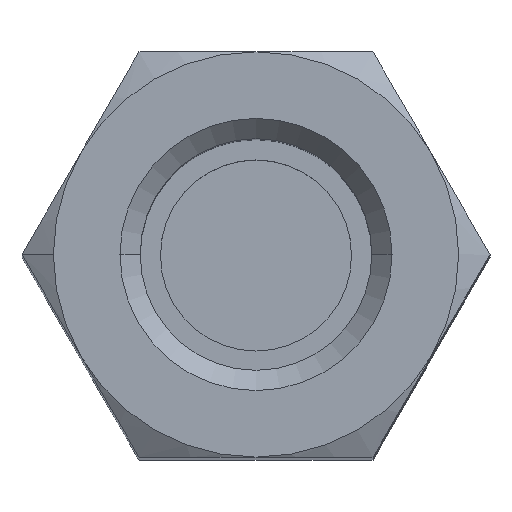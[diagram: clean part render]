
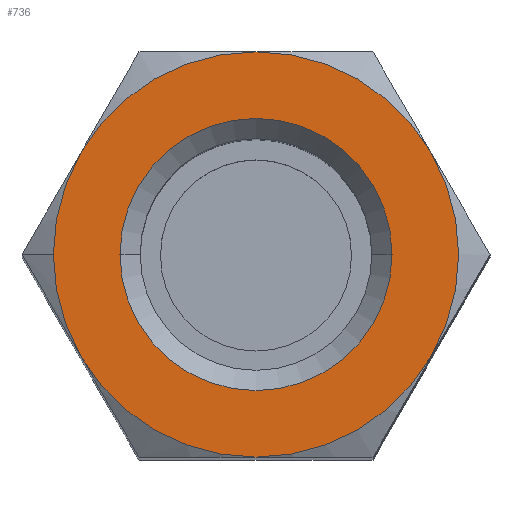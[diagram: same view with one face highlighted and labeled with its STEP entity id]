
A CAD part, top view. The second image highlights one B-rep face of the part: STEP entity #736.
In plain terms, the highlighted planar face has unit normal (0, 0, 1).
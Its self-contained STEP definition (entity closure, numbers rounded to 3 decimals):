
#3 = DIRECTION ( 'NONE',  ( -1., 0., 0. ) ) ;
#19 = PLANE ( 'NONE',  #135 ) ;
#32 = AXIS2_PLACEMENT_3D ( 'NONE', #648, #622, #3 ) ;
#44 = CARTESIAN_POINT ( 'NONE',  ( 0., 0., 15. ) ) ;
#86 = CARTESIAN_POINT ( 'NONE',  ( 0., -3.5, 15. ) ) ;
#89 = DIRECTION ( 'NONE',  ( 0., 0., 1. ) ) ;
#91 = ORIENTED_EDGE ( 'NONE', *, *, #870, .T. ) ;
#92 = ORIENTED_EDGE ( 'NONE', *, *, #523, .T. ) ;
#97 = VERTEX_POINT ( 'NONE', #668 ) ;
#118 = DIRECTION ( 'NONE',  ( 0., 0., -1. ) ) ;
#133 = CIRCLE ( 'NONE', #567, 2.35 ) ;
#135 = AXIS2_PLACEMENT_3D ( 'NONE', #826, #118, #731 ) ;
#138 = CARTESIAN_POINT ( 'NONE',  ( 0., 0., 15. ) ) ;
#149 = ORIENTED_EDGE ( 'NONE', *, *, #902, .T. ) ;
#170 = CIRCLE ( 'NONE', #785, 2.35 ) ;
#185 = FACE_OUTER_BOUND ( 'NONE', #864, .T. ) ;
#198 = EDGE_LOOP ( 'NONE', ( #291, #268 ) ) ;
#218 = DIRECTION ( 'NONE',  ( 0., 0., -1. ) ) ;
#221 = DIRECTION ( 'NONE',  ( -1., 0., 0. ) ) ;
#238 = DIRECTION ( 'NONE',  ( -1., 0., 0. ) ) ;
#252 = VERTEX_POINT ( 'NONE', #928 ) ;
#264 = CIRCLE ( 'NONE', #666, 3.5 ) ;
#265 = CIRCLE ( 'NONE', #735, 3.5 ) ;
#268 = ORIENTED_EDGE ( 'NONE', *, *, #331, .T. ) ;
#281 = AXIS2_PLACEMENT_3D ( 'NONE', #536, #1058, #970 ) ;
#289 = VERTEX_POINT ( 'NONE', #293 ) ;
#291 = ORIENTED_EDGE ( 'NONE', *, *, #334, .T. ) ;
#293 = CARTESIAN_POINT ( 'NONE',  ( 0., 3.5, 15. ) ) ;
#315 = EDGE_CURVE ( 'NONE', #97, #875, #972, .T. ) ;
#331 = EDGE_CURVE ( 'NONE', #366, #930, #133, .T. ) ;
#334 = EDGE_CURVE ( 'NONE', #930, #366, #170, .T. ) ;
#360 = CARTESIAN_POINT ( 'NONE',  ( 3.031, 1.75, 15. ) ) ;
#366 = VERTEX_POINT ( 'NONE', #1042 ) ;
#430 = CARTESIAN_POINT ( 'NONE',  ( 0., 0., 15. ) ) ;
#495 = CARTESIAN_POINT ( 'NONE',  ( 0., 0., 15. ) ) ;
#496 = DIRECTION ( 'NONE',  ( 0., 0., 1. ) ) ;
#497 = EDGE_CURVE ( 'NONE', #1113, #1063, #264, .T. ) ;
#502 = DIRECTION ( 'NONE',  ( 0., 0., 1. ) ) ;
#523 = EDGE_CURVE ( 'NONE', #566, #97, #588, .T. ) ;
#525 = DIRECTION ( 'NONE',  ( -1., 0., 0. ) ) ;
#536 = CARTESIAN_POINT ( 'NONE',  ( 0., 0., 15. ) ) ;
#566 = VERTEX_POINT ( 'NONE', #646 ) ;
#567 = AXIS2_PLACEMENT_3D ( 'NONE', #44, #669, #935 ) ;
#588 = CIRCLE ( 'NONE', #281, 3.5 ) ;
#614 = DIRECTION ( 'NONE',  ( 0., 0., 1. ) ) ;
#622 = DIRECTION ( 'NONE',  ( 0., 0., -1. ) ) ;
#646 = CARTESIAN_POINT ( 'NONE',  ( -3.5, 0., 15. ) ) ;
#648 = CARTESIAN_POINT ( 'NONE',  ( 0., 0., 15. ) ) ;
#666 = AXIS2_PLACEMENT_3D ( 'NONE', #993, #89, #729 ) ;
#668 = CARTESIAN_POINT ( 'NONE',  ( -3.031, -1.75, 15. ) ) ;
#669 = DIRECTION ( 'NONE',  ( 0., 0., -1. ) ) ;
#709 = ORIENTED_EDGE ( 'NONE', *, *, #497, .T. ) ;
#729 = DIRECTION ( 'NONE',  ( -1., 0., 0. ) ) ;
#731 = DIRECTION ( 'NONE',  ( 1., 0., 0. ) ) ;
#735 = AXIS2_PLACEMENT_3D ( 'NONE', #950, #614, #525 ) ;
#736 = ADVANCED_FACE ( 'NONE', ( #997, #185 ), #19, .F. ) ;
#742 = CARTESIAN_POINT ( 'NONE',  ( 0., 0., 15. ) ) ;
#785 = AXIS2_PLACEMENT_3D ( 'NONE', #495, #218, #846 ) ;
#795 = ORIENTED_EDGE ( 'NONE', *, *, #1087, .F. ) ;
#798 = ORIENTED_EDGE ( 'NONE', *, *, #899, .T. ) ;
#826 = CARTESIAN_POINT ( 'NONE',  ( 0., 0., 15. ) ) ;
#846 = DIRECTION ( 'NONE',  ( -1., 0., 0. ) ) ;
#848 = DIRECTION ( 'NONE',  ( -1., 0., 0. ) ) ;
#864 = EDGE_LOOP ( 'NONE', ( #149, #92, #1053, #91, #709, #798, #795 ) ) ;
#870 = EDGE_CURVE ( 'NONE', #875, #1113, #879, .T. ) ;
#875 = VERTEX_POINT ( 'NONE', #86 ) ;
#879 = CIRCLE ( 'NONE', #915, 3.5 ) ;
#899 = EDGE_CURVE ( 'NONE', #1063, #289, #1044, .T. ) ;
#902 = EDGE_CURVE ( 'NONE', #252, #566, #265, .T. ) ;
#915 = AXIS2_PLACEMENT_3D ( 'NONE', #138, #496, #848 ) ;
#928 = CARTESIAN_POINT ( 'NONE',  ( -3.031, 1.75, 15. ) ) ;
#930 = VERTEX_POINT ( 'NONE', #1128 ) ;
#935 = DIRECTION ( 'NONE',  ( -1., 0., 0. ) ) ;
#950 = CARTESIAN_POINT ( 'NONE',  ( 0., 0., 15. ) ) ;
#970 = DIRECTION ( 'NONE',  ( -1., 0., 0. ) ) ;
#972 = CIRCLE ( 'NONE', #1142, 3.5 ) ;
#975 = CIRCLE ( 'NONE', #32, 3.5 ) ;
#990 = AXIS2_PLACEMENT_3D ( 'NONE', #430, #502, #238 ) ;
#993 = CARTESIAN_POINT ( 'NONE',  ( 0., 0., 15. ) ) ;
#995 = CARTESIAN_POINT ( 'NONE',  ( 3.031, -1.75, 15. ) ) ;
#997 = FACE_BOUND ( 'NONE', #198, .T. ) ;
#1008 = DIRECTION ( 'NONE',  ( 0., 0., 1. ) ) ;
#1042 = CARTESIAN_POINT ( 'NONE',  ( -2.35, 0., 15. ) ) ;
#1044 = CIRCLE ( 'NONE', #990, 3.5 ) ;
#1053 = ORIENTED_EDGE ( 'NONE', *, *, #315, .T. ) ;
#1058 = DIRECTION ( 'NONE',  ( 0., 0., 1. ) ) ;
#1063 = VERTEX_POINT ( 'NONE', #360 ) ;
#1087 = EDGE_CURVE ( 'NONE', #252, #289, #975, .T. ) ;
#1113 = VERTEX_POINT ( 'NONE', #995 ) ;
#1128 = CARTESIAN_POINT ( 'NONE',  ( 2.35, 0., 15. ) ) ;
#1142 = AXIS2_PLACEMENT_3D ( 'NONE', #742, #1008, #221 ) ;
